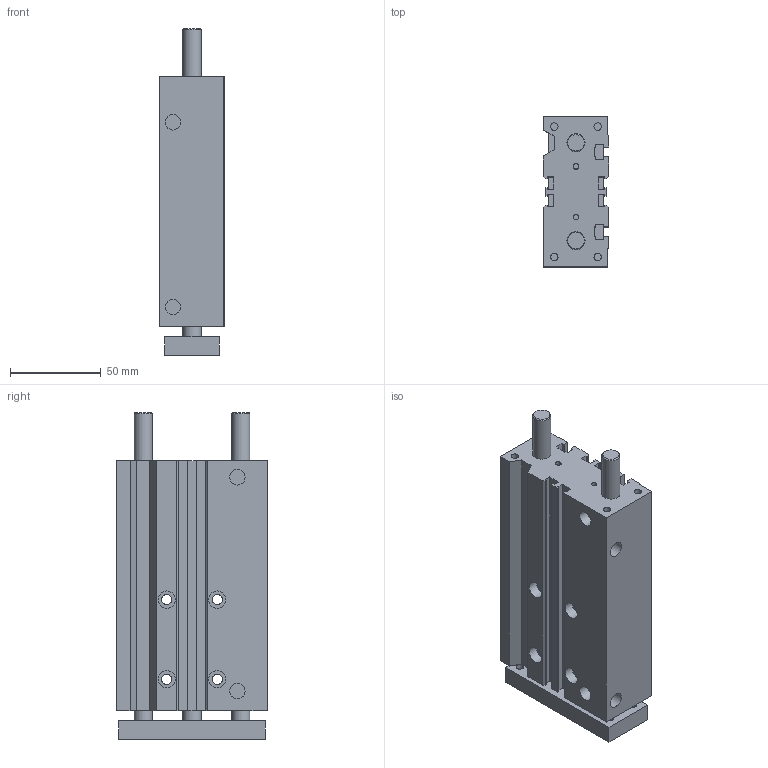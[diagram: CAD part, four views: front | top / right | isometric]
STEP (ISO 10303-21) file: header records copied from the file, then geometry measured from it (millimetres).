
FILE_DESCRIPTION((''),'2;1');
FILE_NAME('K:\A-Mauro\_Inventor\LIBRERIE\6100\6100_#_#_#\6100200100C.stp','2007-02-26T08:53:18',('valotma1'),(''),'Autodesk Inventor 11','Autodesk Inventor 11','');
FILE_SCHEMA(('AUTOMOTIVE_DESIGN { 1 0 10303 214 1 1 1 1 }'));
Length unit declared in the file: millimetre
Products named in the file (3): 6100200100C; CORPO Ø20 C100 C; PIASTRA Ø20 C100 C
Assembly tree (2 placements, depth 2):
  6100200100C
    CORPO Ø20 C100 C
    PIASTRA Ø20 C100 C
Bounding box: 36 x 83 x 180 mm (x, y, z)
Volume: 394157.5 mm3; surface area: 86931.4 mm2
Topology: 2 solids, 2 shells, 158 faces, 393 edges, 261 vertices
Faces by surface type: plane 95, bspline 52, cylinder 9, cone 2
Full cylindrical faces by diameter (mm): 10 x3
Entity records: 4932 total; most frequent: CARTESIAN_POINT 1329, ORIENTED_EDGE 702, DIRECTION 654, EDGE_CURVE 351, VECTOR 270, LINE 270, VERTEX_POINT 253, EDGE_LOOP 234
